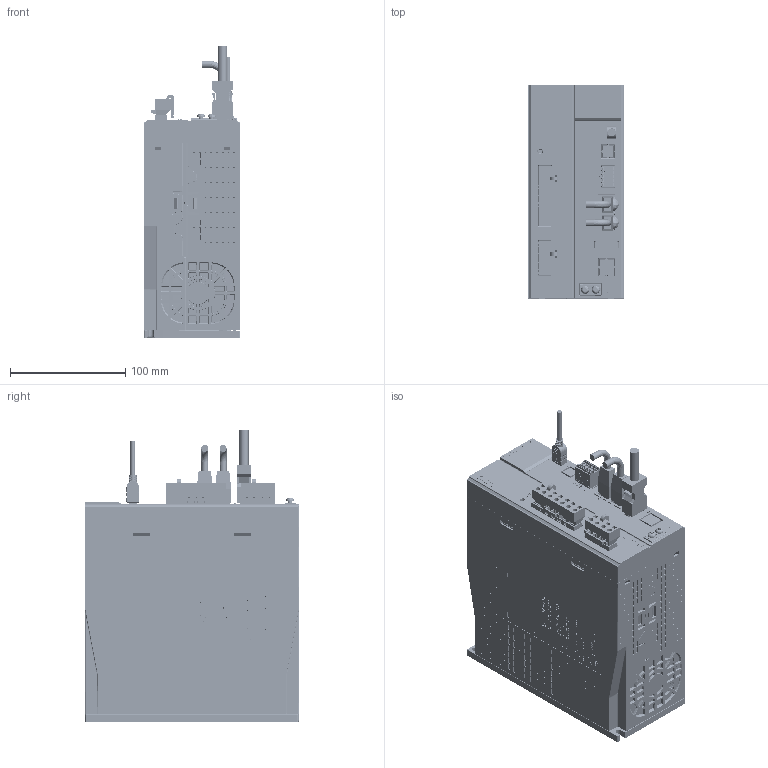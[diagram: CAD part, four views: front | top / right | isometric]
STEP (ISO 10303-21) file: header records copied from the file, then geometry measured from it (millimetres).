
FILE_DESCRIPTION(/* description */ (''),/* implementation_level */ '2;1');
FILE_NAME(/* name */ 'DS5C2-22P3-PTA-官网图+EPLAN图-240423',/* time_stamp */ '2024-04-24T12:58:45+08:00',/* author */ (''),/* organization */ (''),/* preprocessor_version */ 'ST-DEVELOPER v19.2',/* originating_system */ 'Rhino 8.1',/* authorisation */ '');
FILE_SCHEMA (('CONFIG_CONTROL_DESIGN'));
Products named in the file (4): Document; 图块 02; 图块 01
Bounding box: 83.1 x 185.7 x 252.2 mm (x, y, z)
Volume: 1751319.6 mm3; surface area: 513302.9 mm2
Topology: 926 solids, 929 shells, 24989 faces, 65852 edges, 43049 vertices
Faces by surface type: plane 17377, cylinder 4349, bspline 3263
Entity records: 857526 total; most frequent: CARTESIAN_POINT 388757, ORIENTED_EDGE 131173, EDGE_CURVE 65614, B_SPLINE_CURVE_WITH_KNOTS 61430, VERTEX_POINT 43049, DIRECTION 29602, EDGE_LOOP 26750, AXIS2_PLACEMENT_3D 25664
